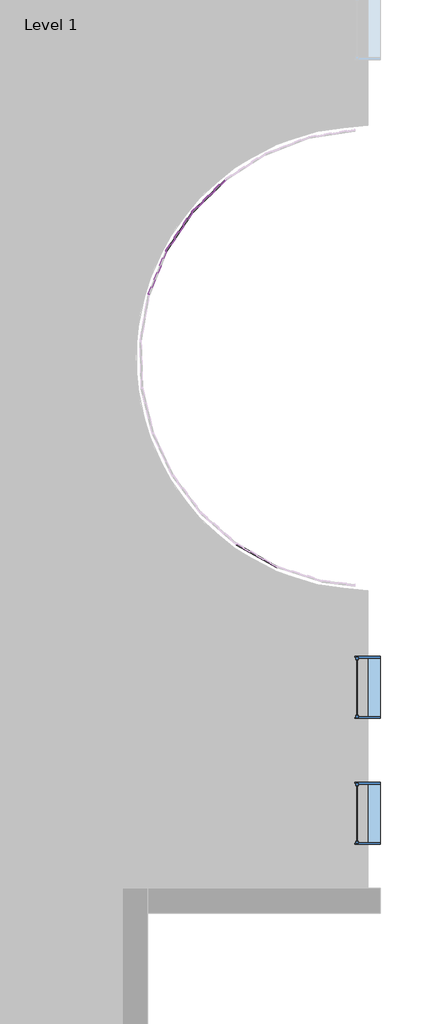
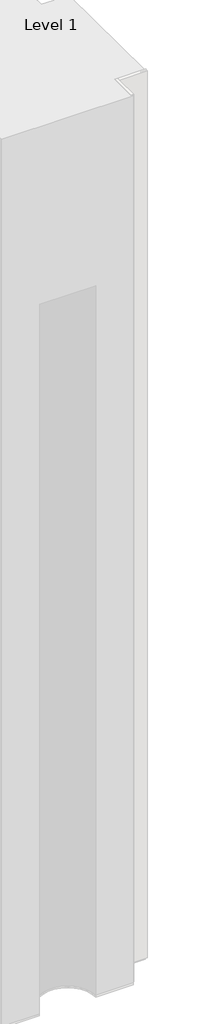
# One storey, part 13 of 20: 121 plates, 2 windows.
"""IFC4 building model written with IfcOpenShell, lengths in millimetres."""

from ifc_helpers import new_model, si_unit, origin, place, context, project, spatial, transform, mapped, element, save
from components import system_panel_glazed_d77d1ebf, window_d0035ecf, window_d434eb62

model = new_model("IFC4")

# Units and contexts
model_context = context("Model", 3, world=origin())
ifc_project = project(units=[si_unit("LENGTHUNIT", "METRE", prefix="MILLI")], contexts=[model_context])

# Site, building, storey
site = spatial("IfcSite", under=ifc_project)
building = spatial("IfcBuilding", under=site)
storey = spatial("IfcBuildingStorey", under=building, Name="Level 1", Elevation=0.0)

# Plates
placement = place(None, origin())
system_panel_glazed_shape = system_panel_glazed_d77d1ebf(model_context)
element("IfcPlate", 1, ObjectType="System Panel : Glazed", at=placement, inside=storey, context=model_context, shape_type="MappedRepresentation", body=[
    mapped(system_panel_glazed_shape, transform((16593.6436197, -10047.6579112, 0.0), x_axis=(0.8722386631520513, -0.4890804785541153, 0.0), y_axis=(0.4890804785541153, 0.8722386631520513, 0.0), z_axis=(0.0, 0.0, 1.0))),
])
element("IfcPlate", 2, ObjectType="System Panel : Glazed", at=placement, inside=storey, context=model_context, shape_type="MappedRepresentation", body=[
    mapped(system_panel_glazed_shape, transform((16593.6436197, -10047.6579112, 3048.0), x_axis=(0.8722386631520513, -0.4890804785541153, 0.0), y_axis=(0.4890804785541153, 0.8722386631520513, 0.0), z_axis=(0.0, 0.0, 1.0))),
])
element("IfcPlate", 3, ObjectType="System Panel : Glazed", at=placement, inside=storey, context=model_context, shape_type="MappedRepresentation", body=[
    mapped(system_panel_glazed_shape, transform((16593.6436197, -10047.6579112, 6096.0), x_axis=(0.8722386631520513, -0.4890804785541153, 0.0), y_axis=(0.4890804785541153, 0.8722386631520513, 0.0), z_axis=(0.0, 0.0, 1.0))),
])
element("IfcPlate", 4, ObjectType="System Panel : Glazed", at=placement, inside=storey, context=model_context, shape_type="MappedRepresentation", body=[
    mapped(system_panel_glazed_shape, transform((16593.6436197, -10047.6579112, 9144.0), x_axis=(0.8722386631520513, -0.4890804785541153, 0.0), y_axis=(0.4890804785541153, 0.8722386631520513, 0.0), z_axis=(0.0, 0.0, 1.0))),
])
element("IfcPlate", 5, ObjectType="System Panel : Glazed", at=placement, inside=storey, context=model_context, shape_type="MappedRepresentation", body=[
    mapped(system_panel_glazed_shape, transform((16593.6436197, -10047.6579112, 12192.0), x_axis=(0.8722386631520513, -0.4890804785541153, 0.0), y_axis=(0.4890804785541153, 0.8722386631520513, 0.0), z_axis=(0.0, 0.0, 1.0))),
])
element("IfcPlate", 6, ObjectType="System Panel : Glazed", at=placement, inside=storey, context=model_context, shape_type="MappedRepresentation", body=[
    mapped(system_panel_glazed_shape, transform((16593.6436197, -10047.6579112, 15240.0), x_axis=(0.8722386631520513, -0.4890804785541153, 0.0), y_axis=(0.4890804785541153, 0.8722386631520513, 0.0), z_axis=(0.0, 0.0, 1.0))),
])
element("IfcPlate", 7, ObjectType="System Panel : Glazed", at=placement, inside=storey, context=model_context, shape_type="MappedRepresentation", body=[
    mapped(system_panel_glazed_shape, transform((16593.6436197, -10047.6579112, 18288.0), x_axis=(0.8722386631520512, -0.48908047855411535, 0.0), y_axis=(0.48908047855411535, 0.8722386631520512, 0.0), z_axis=(0.0, 0.0, 1.0))),
])
element("IfcPlate", 8, ObjectType="System Panel : Glazed", at=placement, inside=storey, context=model_context, shape_type="MappedRepresentation", body=[
    mapped(system_panel_glazed_shape, transform((16593.6436197, -10047.6579112, 21336.0), x_axis=(0.8722386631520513, -0.4890804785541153, 0.0), y_axis=(0.4890804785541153, 0.8722386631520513, 0.0), z_axis=(0.0, 0.0, 1.0))),
])
element("IfcPlate", 9, ObjectType="System Panel : Glazed", at=placement, inside=storey, context=model_context, shape_type="MappedRepresentation", body=[
    mapped(system_panel_glazed_shape, transform((16593.6436197, -10047.6579112, 24384.0), x_axis=(0.8722386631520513, -0.4890804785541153, 0.0), y_axis=(0.4890804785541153, 0.8722386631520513, 0.0), z_axis=(0.0, 0.0, 1.0))),
])
element("IfcPlate", 10, ObjectType="System Panel : Glazed", at=placement, inside=storey, context=model_context, shape_type="MappedRepresentation", body=[
    mapped(system_panel_glazed_shape, transform((16593.6436197, -10047.6579112, 27432.0), x_axis=(0.8722386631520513, -0.4890804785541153, 0.0), y_axis=(0.4890804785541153, 0.8722386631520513, 0.0), z_axis=(0.0, 0.0, 1.0))),
])
element("IfcPlate", 11, ObjectType="System Panel : Glazed", at=placement, inside=storey, context=model_context, shape_type="MappedRepresentation", body=[
    mapped(system_panel_glazed_shape, transform((16593.6436197, -10047.6579112, 30480.0), x_axis=(0.8722386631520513, -0.4890804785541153, 0.0), y_axis=(0.4890804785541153, 0.8722386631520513, 0.0), z_axis=(0.0, 0.0, 1.0))),
])
element("IfcPlate", 12, ObjectType="System Panel : Glazed", at=placement, inside=storey, context=model_context, shape_type="MappedRepresentation", body=[
    mapped(system_panel_glazed_shape, transform((16593.6436197, -10047.6579112, 33528.0), x_axis=(0.8722386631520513, -0.4890804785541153, 0.0), y_axis=(0.4890804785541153, 0.8722386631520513, 0.0), z_axis=(0.0, 0.0, 1.0))),
])
element("IfcPlate", 13, ObjectType="System Panel : Glazed", at=placement, inside=storey, context=model_context, shape_type="MappedRepresentation", body=[
    mapped(system_panel_glazed_shape, transform((16593.6436197, -10047.6579112, 36576.0), x_axis=(0.8722386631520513, -0.4890804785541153, 0.0), y_axis=(0.4890804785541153, 0.8722386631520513, 0.0), z_axis=(0.0, 0.0, 1.0))),
])
element("IfcPlate", 14, ObjectType="System Panel : Glazed", at=placement, inside=storey, context=model_context, shape_type="MappedRepresentation", body=[
    mapped(system_panel_glazed_shape, transform((16593.6436197, -10047.6579112, 39624.0), x_axis=(0.8722386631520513, -0.4890804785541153, 0.0), y_axis=(0.4890804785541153, 0.8722386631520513, 0.0), z_axis=(0.0, 0.0, 1.0))),
])
element("IfcPlate", 15, ObjectType="System Panel : Glazed", at=placement, inside=storey, context=model_context, shape_type="MappedRepresentation", body=[
    mapped(system_panel_glazed_shape, transform((16593.6436197, -10047.6579112, 42672.0), x_axis=(0.8722386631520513, -0.4890804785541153, 0.0), y_axis=(0.4890804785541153, 0.8722386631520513, 0.0), z_axis=(0.0, 0.0, 1.0))),
])
element("IfcPlate", 16, ObjectType="System Panel : Glazed", at=placement, inside=storey, context=model_context, shape_type="MappedRepresentation", body=[
    mapped(system_panel_glazed_shape, transform((16593.6436197, -10047.6579112, 45720.0), x_axis=(0.8722386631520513, -0.4890804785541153, 0.0), y_axis=(0.4890804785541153, 0.8722386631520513, 0.0), z_axis=(0.0, 0.0, 1.0))),
])
element("IfcPlate", 17, ObjectType="System Panel : Glazed", at=placement, inside=storey, context=model_context, shape_type="MappedRepresentation", body=[
    mapped(system_panel_glazed_shape, transform((16593.6436197, -10047.6579112, 48768.0), x_axis=(0.8722386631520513, -0.4890804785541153, 0.0), y_axis=(0.4890804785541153, 0.8722386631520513, 0.0), z_axis=(0.0, 0.0, 1.0))),
])
element("IfcPlate", 18, ObjectType="System Panel : Glazed", at=placement, inside=storey, context=model_context, shape_type="MappedRepresentation", body=[
    mapped(system_panel_glazed_shape, transform((16593.6436197, -10047.6579112, 51816.0), x_axis=(0.8722386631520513, -0.4890804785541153, 0.0), y_axis=(0.4890804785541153, 0.8722386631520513, 0.0), z_axis=(0.0, 0.0, 1.0))),
])
element("IfcPlate", 19, ObjectType="System Panel : Glazed", at=placement, inside=storey, context=model_context, shape_type="MappedRepresentation", body=[
    mapped(system_panel_glazed_shape, transform((16593.6436197, -10047.6579112, 54864.0), x_axis=(0.8722386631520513, -0.4890804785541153, 0.0), y_axis=(0.4890804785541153, 0.8722386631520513, 0.0), z_axis=(0.0, 0.0, 1.0))),
])
element("IfcPlate", 20, ObjectType="System Panel : Glazed", at=placement, inside=storey, context=model_context, shape_type="MappedRepresentation", body=[
    mapped(system_panel_glazed_shape, transform((16593.6436197, -10047.6579112, 57912.0), x_axis=(0.8722386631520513, -0.4890804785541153, 0.0), y_axis=(0.4890804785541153, 0.8722386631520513, 0.0), z_axis=(0.0, 0.0, 1.0))),
])
element("IfcPlate", 21, ObjectType="System Panel : Glazed", at=placement, inside=storey, context=model_context, shape_type="MappedRepresentation", body=[
    mapped(system_panel_glazed_shape, transform((14651.5420762, -4539.9394388, 57912.0), x_axis=(-0.37255142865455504, -0.9280115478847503, 0.0), y_axis=(0.9280115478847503, -0.37255142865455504, 0.0), z_axis=(0.0, 0.0, 1.0))),
])
element("IfcPlate", 22, ObjectType="System Panel : Glazed", at=placement, inside=storey, context=model_context, shape_type="MappedRepresentation", body=[
    mapped(system_panel_glazed_shape, transform((14651.5420762, -4539.9394388, 60960.0), x_axis=(-0.37255142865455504, -0.9280115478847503, 0.0), y_axis=(0.9280115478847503, -0.37255142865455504, 0.0), z_axis=(0.0, 0.0, 1.0))),
])
element("IfcPlate", 23, ObjectType="System Panel : Glazed", at=placement, inside=storey, context=model_context, shape_type="MappedRepresentation", body=[
    mapped(system_panel_glazed_shape, transform((14651.5420762, -4539.9394388, 64008.0), x_axis=(-0.37255142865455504, -0.9280115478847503, 0.0), y_axis=(0.9280115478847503, -0.37255142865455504, 0.0), z_axis=(0.0, 0.0, 1.0))),
])
element("IfcPlate", 24, ObjectType="System Panel : Glazed", at=placement, inside=storey, context=model_context, shape_type="MappedRepresentation", body=[
    mapped(system_panel_glazed_shape, transform((14651.5420762, -4539.9394388, 67056.0), x_axis=(-0.37255142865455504, -0.9280115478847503, 0.0), y_axis=(0.9280115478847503, -0.37255142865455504, 0.0), z_axis=(0.0, 0.0, 1.0))),
])
element("IfcPlate", 25, ObjectType="System Panel : Glazed", at=placement, inside=storey, context=model_context, shape_type="MappedRepresentation", body=[
    mapped(system_panel_glazed_shape, transform((14651.5420762, -4539.9394388, 70104.0), x_axis=(-0.37255142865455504, -0.9280115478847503, 0.0), y_axis=(0.9280115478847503, -0.37255142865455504, 0.0), z_axis=(0.0, 0.0, 1.0))),
])
element("IfcPlate", 26, ObjectType="System Panel : Glazed", at=placement, inside=storey, context=model_context, shape_type="MappedRepresentation", body=[
    mapped(system_panel_glazed_shape, transform((14651.5420762, -4539.9394388, 73152.0), x_axis=(-0.37255142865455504, -0.9280115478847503, 0.0), y_axis=(0.9280115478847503, -0.37255142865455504, 0.0), z_axis=(0.0, 0.0, 1.0))),
])
element("IfcPlate", 27, ObjectType="System Panel : Glazed", at=placement, inside=storey, context=model_context, shape_type="MappedRepresentation", body=[
    mapped(system_panel_glazed_shape, transform((14651.5420762, -4539.9394388, 76200.0), x_axis=(-0.37255142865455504, -0.9280115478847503, 0.0), y_axis=(0.9280115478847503, -0.37255142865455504, 0.0), z_axis=(0.0, 0.0, 1.0))),
])
element("IfcPlate", 28, ObjectType="System Panel : Glazed", at=placement, inside=storey, context=model_context, shape_type="MappedRepresentation", body=[
    mapped(system_panel_glazed_shape, transform((14651.5420762, -4539.9394388, 79248.0), x_axis=(-0.37255142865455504, -0.9280115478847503, 0.0), y_axis=(0.9280115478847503, -0.37255142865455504, 0.0), z_axis=(0.0, 0.0, 1.0))),
])
element("IfcPlate", 29, ObjectType="System Panel : Glazed", at=placement, inside=storey, context=model_context, shape_type="MappedRepresentation", body=[
    mapped(system_panel_glazed_shape, transform((14651.5420762, -4539.9394388, 82296.0), x_axis=(-0.37255142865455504, -0.9280115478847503, 0.0), y_axis=(0.9280115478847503, -0.37255142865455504, 0.0), z_axis=(0.0, 0.0, 1.0))),
])
element("IfcPlate", 30, ObjectType="System Panel : Glazed", at=placement, inside=storey, context=model_context, shape_type="MappedRepresentation", body=[
    mapped(system_panel_glazed_shape, transform((14651.5420762, -4539.9394388, 85344.0), x_axis=(-0.37255142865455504, -0.9280115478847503, 0.0), y_axis=(0.9280115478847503, -0.37255142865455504, 0.0), z_axis=(0.0, 0.0, 1.0))),
])
element("IfcPlate", 31, ObjectType="System Panel : Glazed", at=placement, inside=storey, context=model_context, shape_type="MappedRepresentation", body=[
    mapped(system_panel_glazed_shape, transform((14651.5420762, -4539.9394388, 88392.0), x_axis=(-0.37255142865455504, -0.9280115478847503, 0.0), y_axis=(0.9280115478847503, -0.37255142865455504, 0.0), z_axis=(0.0, 0.0, 1.0))),
])
element("IfcPlate", 32, ObjectType="System Panel : Glazed", at=placement, inside=storey, context=model_context, shape_type="MappedRepresentation", body=[
    mapped(system_panel_glazed_shape, transform((14651.5420762, -4539.9394388, 91440.0), x_axis=(-0.37255142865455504, -0.9280115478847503, 0.0), y_axis=(0.9280115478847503, -0.37255142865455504, 0.0), z_axis=(0.0, 0.0, 1.0))),
])
element("IfcPlate", 33, ObjectType="System Panel : Glazed", at=placement, inside=storey, context=model_context, shape_type="MappedRepresentation", body=[
    mapped(system_panel_glazed_shape, transform((14651.5420762, -4539.9394388, 94488.0), x_axis=(-0.37255142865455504, -0.9280115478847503, 0.0), y_axis=(0.9280115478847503, -0.37255142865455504, 0.0), z_axis=(0.0, 0.0, 1.0))),
])
element("IfcPlate", 34, ObjectType="System Panel : Glazed", at=placement, inside=storey, context=model_context, shape_type="MappedRepresentation", body=[
    mapped(system_panel_glazed_shape, transform((14651.5420762, -4539.9394388, 97536.0), x_axis=(-0.37255142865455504, -0.9280115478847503, 0.0), y_axis=(0.9280115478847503, -0.37255142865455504, 0.0), z_axis=(0.0, 0.0, 1.0))),
])
element("IfcPlate", 35, ObjectType="System Panel : Glazed", at=placement, inside=storey, context=model_context, shape_type="MappedRepresentation", body=[
    mapped(system_panel_glazed_shape, transform((14651.5420762, -4539.9394388, 100584.0), x_axis=(-0.37255142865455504, -0.9280115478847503, 0.0), y_axis=(0.9280115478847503, -0.37255142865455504, 0.0), z_axis=(0.0, 0.0, 1.0))),
])
element("IfcPlate", 36, ObjectType="System Panel : Glazed", at=placement, inside=storey, context=model_context, shape_type="MappedRepresentation", body=[
    mapped(system_panel_glazed_shape, transform((15075.3618251, -3735.1593958, 0.0), x_axis=(-0.5544383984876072, -0.8322247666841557, 0.0), y_axis=(0.8322247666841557, -0.5544383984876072, 0.0), z_axis=(0.0, 0.0, 1.0))),
])
element("IfcPlate", 37, ObjectType="System Panel : Glazed", at=placement, inside=storey, context=model_context, shape_type="MappedRepresentation", body=[
    mapped(system_panel_glazed_shape, transform((15075.3618251, -3735.1593958, 3048.0), x_axis=(-0.5544383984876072, -0.8322247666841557, 0.0), y_axis=(0.8322247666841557, -0.5544383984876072, 0.0), z_axis=(0.0, 0.0, 1.0))),
])
element("IfcPlate", 38, ObjectType="System Panel : Glazed", at=placement, inside=storey, context=model_context, shape_type="MappedRepresentation", body=[
    mapped(system_panel_glazed_shape, transform((15075.3618251, -3735.1593958, 6096.0), x_axis=(-0.5544383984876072, -0.8322247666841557, 0.0), y_axis=(0.8322247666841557, -0.5544383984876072, 0.0), z_axis=(0.0, 0.0, 1.0))),
])
element("IfcPlate", 39, ObjectType="System Panel : Glazed", at=placement, inside=storey, context=model_context, shape_type="MappedRepresentation", body=[
    mapped(system_panel_glazed_shape, transform((15075.3618251, -3735.1593958, 9144.0), x_axis=(-0.5544383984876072, -0.8322247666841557, 0.0), y_axis=(0.8322247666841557, -0.5544383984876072, 0.0), z_axis=(0.0, 0.0, 1.0))),
])
element("IfcPlate", 40, ObjectType="System Panel : Glazed", at=placement, inside=storey, context=model_context, shape_type="MappedRepresentation", body=[
    mapped(system_panel_glazed_shape, transform((15075.3618251, -3735.1593958, 12192.0), x_axis=(-0.5544383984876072, -0.8322247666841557, 0.0), y_axis=(0.8322247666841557, -0.5544383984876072, 0.0), z_axis=(0.0, 0.0, 1.0))),
])
element("IfcPlate", 41, ObjectType="System Panel : Glazed", at=placement, inside=storey, context=model_context, shape_type="MappedRepresentation", body=[
    mapped(system_panel_glazed_shape, transform((15075.3618251, -3735.1593958, 15240.0), x_axis=(-0.5544383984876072, -0.8322247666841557, 0.0), y_axis=(0.8322247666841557, -0.5544383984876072, 0.0), z_axis=(0.0, 0.0, 1.0))),
])
element("IfcPlate", 42, ObjectType="System Panel : Glazed", at=placement, inside=storey, context=model_context, shape_type="MappedRepresentation", body=[
    mapped(system_panel_glazed_shape, transform((15075.3618251, -3735.1593958, 18288.0), x_axis=(-0.5544383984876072, -0.8322247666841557, 0.0), y_axis=(0.8322247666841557, -0.5544383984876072, 0.0), z_axis=(0.0, 0.0, 1.0))),
])
element("IfcPlate", 43, ObjectType="System Panel : Glazed", at=placement, inside=storey, context=model_context, shape_type="MappedRepresentation", body=[
    mapped(system_panel_glazed_shape, transform((15075.3618251, -3735.1593958, 21336.0), x_axis=(-0.5544383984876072, -0.8322247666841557, 0.0), y_axis=(0.8322247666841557, -0.5544383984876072, 0.0), z_axis=(0.0, 0.0, 1.0))),
])
element("IfcPlate", 44, ObjectType="System Panel : Glazed", at=placement, inside=storey, context=model_context, shape_type="MappedRepresentation", body=[
    mapped(system_panel_glazed_shape, transform((15075.3618251, -3735.1593958, 24384.0), x_axis=(-0.5544383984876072, -0.8322247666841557, 0.0), y_axis=(0.8322247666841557, -0.5544383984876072, 0.0), z_axis=(0.0, 0.0, 1.0))),
])
element("IfcPlate", 45, ObjectType="System Panel : Glazed", at=placement, inside=storey, context=model_context, shape_type="MappedRepresentation", body=[
    mapped(system_panel_glazed_shape, transform((15075.3618251, -3735.1593958, 27432.0), x_axis=(-0.5544383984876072, -0.8322247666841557, 0.0), y_axis=(0.8322247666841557, -0.5544383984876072, 0.0), z_axis=(0.0, 0.0, 1.0))),
])
element("IfcPlate", 46, ObjectType="System Panel : Glazed", at=placement, inside=storey, context=model_context, shape_type="MappedRepresentation", body=[
    mapped(system_panel_glazed_shape, transform((15075.3618251, -3735.1593958, 30480.0), x_axis=(-0.5544383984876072, -0.8322247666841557, 0.0), y_axis=(0.8322247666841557, -0.5544383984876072, 0.0), z_axis=(0.0, 0.0, 1.0))),
])
element("IfcPlate", 47, ObjectType="System Panel : Glazed", at=placement, inside=storey, context=model_context, shape_type="MappedRepresentation", body=[
    mapped(system_panel_glazed_shape, transform((15075.3618251, -3735.1593958, 33528.0), x_axis=(-0.5544383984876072, -0.8322247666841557, 0.0), y_axis=(0.8322247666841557, -0.5544383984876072, 0.0), z_axis=(0.0, 0.0, 1.0))),
])
element("IfcPlate", 48, ObjectType="System Panel : Glazed", at=placement, inside=storey, context=model_context, shape_type="MappedRepresentation", body=[
    mapped(system_panel_glazed_shape, transform((15075.3618251, -3735.1593958, 36576.0), x_axis=(-0.5544383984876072, -0.8322247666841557, 0.0), y_axis=(0.8322247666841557, -0.5544383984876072, 0.0), z_axis=(0.0, 0.0, 1.0))),
])
element("IfcPlate", 49, ObjectType="System Panel : Glazed", at=placement, inside=storey, context=model_context, shape_type="MappedRepresentation", body=[
    mapped(system_panel_glazed_shape, transform((15075.3618251, -3735.1593958, 39624.0), x_axis=(-0.5544383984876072, -0.8322247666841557, 0.0), y_axis=(0.8322247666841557, -0.5544383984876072, 0.0), z_axis=(0.0, 0.0, 1.0))),
])
element("IfcPlate", 50, ObjectType="System Panel : Glazed", at=placement, inside=storey, context=model_context, shape_type="MappedRepresentation", body=[
    mapped(system_panel_glazed_shape, transform((15075.3618251, -3735.1593958, 42672.0), x_axis=(-0.5544383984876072, -0.8322247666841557, 0.0), y_axis=(0.8322247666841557, -0.5544383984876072, 0.0), z_axis=(0.0, 0.0, 1.0))),
])
element("IfcPlate", 51, ObjectType="System Panel : Glazed", at=placement, inside=storey, context=model_context, shape_type="MappedRepresentation", body=[
    mapped(system_panel_glazed_shape, transform((15075.3618251, -3735.1593958, 45720.0), x_axis=(-0.5544383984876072, -0.8322247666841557, 0.0), y_axis=(0.8322247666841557, -0.5544383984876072, 0.0), z_axis=(0.0, 0.0, 1.0))),
])
element("IfcPlate", 52, ObjectType="System Panel : Glazed", at=placement, inside=storey, context=model_context, shape_type="MappedRepresentation", body=[
    mapped(system_panel_glazed_shape, transform((15075.3618251, -3735.1593958, 48768.0), x_axis=(-0.5544383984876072, -0.8322247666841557, 0.0), y_axis=(0.8322247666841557, -0.5544383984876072, 0.0), z_axis=(0.0, 0.0, 1.0))),
])
element("IfcPlate", 53, ObjectType="System Panel : Glazed", at=placement, inside=storey, context=model_context, shape_type="MappedRepresentation", body=[
    mapped(system_panel_glazed_shape, transform((15075.3618251, -3735.1593958, 51816.0), x_axis=(-0.5544383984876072, -0.8322247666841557, 0.0), y_axis=(0.8322247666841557, -0.5544383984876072, 0.0), z_axis=(0.0, 0.0, 1.0))),
])
element("IfcPlate", 54, ObjectType="System Panel : Glazed", at=placement, inside=storey, context=model_context, shape_type="MappedRepresentation", body=[
    mapped(system_panel_glazed_shape, transform((15075.3618251, -3735.1593958, 54864.0), x_axis=(-0.5544383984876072, -0.8322247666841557, 0.0), y_axis=(0.8322247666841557, -0.5544383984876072, 0.0), z_axis=(0.0, 0.0, 1.0))),
])
element("IfcPlate", 55, ObjectType="System Panel : Glazed", at=placement, inside=storey, context=model_context, shape_type="MappedRepresentation", body=[
    mapped(system_panel_glazed_shape, transform((15075.3618251, -3735.1593958, 57912.0), x_axis=(-0.5544383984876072, -0.8322247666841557, 0.0), y_axis=(0.8322247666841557, -0.5544383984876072, 0.0), z_axis=(0.0, 0.0, 1.0))),
])
element("IfcPlate", 56, ObjectType="System Panel : Glazed", at=placement, inside=storey, context=model_context, shape_type="MappedRepresentation", body=[
    mapped(system_panel_glazed_shape, transform((15075.3618251, -3735.1593958, 60960.0), x_axis=(-0.5544383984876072, -0.8322247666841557, 0.0), y_axis=(0.8322247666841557, -0.5544383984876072, 0.0), z_axis=(0.0, 0.0, 1.0))),
])
element("IfcPlate", 57, ObjectType="System Panel : Glazed", at=placement, inside=storey, context=model_context, shape_type="MappedRepresentation", body=[
    mapped(system_panel_glazed_shape, transform((15075.3618251, -3735.1593958, 64008.0), x_axis=(-0.5544383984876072, -0.8322247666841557, 0.0), y_axis=(0.8322247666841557, -0.5544383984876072, 0.0), z_axis=(0.0, 0.0, 1.0))),
])
element("IfcPlate", 58, ObjectType="System Panel : Glazed", at=placement, inside=storey, context=model_context, shape_type="MappedRepresentation", body=[
    mapped(system_panel_glazed_shape, transform((15075.3618251, -3735.1593958, 67056.0), x_axis=(-0.5544383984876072, -0.8322247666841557, 0.0), y_axis=(0.8322247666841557, -0.5544383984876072, 0.0), z_axis=(0.0, 0.0, 1.0))),
])
element("IfcPlate", 59, ObjectType="System Panel : Glazed", at=placement, inside=storey, context=model_context, shape_type="MappedRepresentation", body=[
    mapped(system_panel_glazed_shape, transform((15075.3618251, -3735.1593958, 70104.0), x_axis=(-0.5544383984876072, -0.8322247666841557, 0.0), y_axis=(0.8322247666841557, -0.5544383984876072, 0.0), z_axis=(0.0, 0.0, 1.0))),
])
element("IfcPlate", 60, ObjectType="System Panel : Glazed", at=placement, inside=storey, context=model_context, shape_type="MappedRepresentation", body=[
    mapped(system_panel_glazed_shape, transform((15075.3618251, -3735.1593958, 73152.0), x_axis=(-0.5544383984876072, -0.8322247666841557, 0.0), y_axis=(0.8322247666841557, -0.5544383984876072, 0.0), z_axis=(0.0, 0.0, 1.0))),
])
element("IfcPlate", 61, ObjectType="System Panel : Glazed", at=placement, inside=storey, context=model_context, shape_type="MappedRepresentation", body=[
    mapped(system_panel_glazed_shape, transform((15075.3618251, -3735.1593958, 76200.0), x_axis=(-0.5544383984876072, -0.8322247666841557, 0.0), y_axis=(0.8322247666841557, -0.5544383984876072, 0.0), z_axis=(0.0, 0.0, 1.0))),
])
element("IfcPlate", 62, ObjectType="System Panel : Glazed", at=placement, inside=storey, context=model_context, shape_type="MappedRepresentation", body=[
    mapped(system_panel_glazed_shape, transform((15075.3618251, -3735.1593958, 79248.0), x_axis=(-0.5544383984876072, -0.8322247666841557, 0.0), y_axis=(0.8322247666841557, -0.5544383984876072, 0.0), z_axis=(0.0, 0.0, 1.0))),
])
element("IfcPlate", 63, ObjectType="System Panel : Glazed", at=placement, inside=storey, context=model_context, shape_type="MappedRepresentation", body=[
    mapped(system_panel_glazed_shape, transform((15075.3618251, -3735.1593958, 82296.0), x_axis=(-0.5544383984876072, -0.8322247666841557, 0.0), y_axis=(0.8322247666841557, -0.5544383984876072, 0.0), z_axis=(0.0, 0.0, 1.0))),
])
element("IfcPlate", 64, ObjectType="System Panel : Glazed", at=placement, inside=storey, context=model_context, shape_type="MappedRepresentation", body=[
    mapped(system_panel_glazed_shape, transform((15075.3618251, -3735.1593958, 85344.0), x_axis=(-0.5544383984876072, -0.8322247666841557, 0.0), y_axis=(0.8322247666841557, -0.5544383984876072, 0.0), z_axis=(0.0, 0.0, 1.0))),
])
element("IfcPlate", 65, ObjectType="System Panel : Glazed", at=placement, inside=storey, context=model_context, shape_type="MappedRepresentation", body=[
    mapped(system_panel_glazed_shape, transform((15075.3618251, -3735.1593958, 88392.0), x_axis=(-0.5544383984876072, -0.8322247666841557, 0.0), y_axis=(0.8322247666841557, -0.5544383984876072, 0.0), z_axis=(0.0, 0.0, 1.0))),
])
element("IfcPlate", 66, ObjectType="System Panel : Glazed", at=placement, inside=storey, context=model_context, shape_type="MappedRepresentation", body=[
    mapped(system_panel_glazed_shape, transform((15075.3618251, -3735.1593958, 91440.0), x_axis=(-0.5544383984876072, -0.8322247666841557, 0.0), y_axis=(0.8322247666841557, -0.5544383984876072, 0.0), z_axis=(0.0, 0.0, 1.0))),
])
element("IfcPlate", 67, ObjectType="System Panel : Glazed", at=placement, inside=storey, context=model_context, shape_type="MappedRepresentation", body=[
    mapped(system_panel_glazed_shape, transform((15075.3618251, -3735.1593958, 94488.0), x_axis=(-0.5544383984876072, -0.8322247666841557, 0.0), y_axis=(0.8322247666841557, -0.5544383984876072, 0.0), z_axis=(0.0, 0.0, 1.0))),
])
element("IfcPlate", 68, ObjectType="System Panel : Glazed", at=placement, inside=storey, context=model_context, shape_type="MappedRepresentation", body=[
    mapped(system_panel_glazed_shape, transform((15075.3618251, -3735.1593958, 97536.0), x_axis=(-0.5544383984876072, -0.8322247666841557, 0.0), y_axis=(0.8322247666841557, -0.5544383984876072, 0.0), z_axis=(0.0, 0.0, 1.0))),
])
element("IfcPlate", 69, ObjectType="System Panel : Glazed", at=placement, inside=storey, context=model_context, shape_type="MappedRepresentation", body=[
    mapped(system_panel_glazed_shape, transform((15075.3618251, -3735.1593958, 100584.0), x_axis=(-0.5544383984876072, -0.8322247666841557, 0.0), y_axis=(0.8322247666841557, -0.5544383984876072, 0.0), z_axis=(0.0, 0.0, 1.0))),
])
element("IfcPlate", 70, ObjectType="System Panel : Glazed", at=placement, inside=storey, context=model_context, shape_type="MappedRepresentation", body=[
    mapped(system_panel_glazed_shape, transform((15654.787077, -3034.0456569, 0.0), x_axis=(-0.7128959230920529, -0.701269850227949, 0.0), y_axis=(0.701269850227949, -0.7128959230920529, 0.0), z_axis=(0.0, 0.0, 1.0))),
])
element("IfcPlate", 71, ObjectType="System Panel : Glazed", at=placement, inside=storey, context=model_context, shape_type="MappedRepresentation", body=[
    mapped(system_panel_glazed_shape, transform((15654.787077, -3034.0456569, 3048.0), x_axis=(-0.7128959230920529, -0.701269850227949, 0.0), y_axis=(0.701269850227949, -0.7128959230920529, 0.0), z_axis=(0.0, 0.0, 1.0))),
])
element("IfcPlate", 72, ObjectType="System Panel : Glazed", at=placement, inside=storey, context=model_context, shape_type="MappedRepresentation", body=[
    mapped(system_panel_glazed_shape, transform((15654.787077, -3034.0456569, 6096.0), x_axis=(-0.7128959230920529, -0.701269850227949, 0.0), y_axis=(0.701269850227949, -0.7128959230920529, 0.0), z_axis=(0.0, 0.0, 1.0))),
])
element("IfcPlate", 73, ObjectType="System Panel : Glazed", at=placement, inside=storey, context=model_context, shape_type="MappedRepresentation", body=[
    mapped(system_panel_glazed_shape, transform((15654.787077, -3034.0456569, 9144.0), x_axis=(-0.7128959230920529, -0.701269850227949, 0.0), y_axis=(0.701269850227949, -0.7128959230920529, 0.0), z_axis=(0.0, 0.0, 1.0))),
])
element("IfcPlate", 74, ObjectType="System Panel : Glazed", at=placement, inside=storey, context=model_context, shape_type="MappedRepresentation", body=[
    mapped(system_panel_glazed_shape, transform((15654.787077, -3034.0456569, 12192.0), x_axis=(-0.7128959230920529, -0.701269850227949, 0.0), y_axis=(0.701269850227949, -0.7128959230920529, 0.0), z_axis=(0.0, 0.0, 1.0))),
])
element("IfcPlate", 75, ObjectType="System Panel : Glazed", at=placement, inside=storey, context=model_context, shape_type="MappedRepresentation", body=[
    mapped(system_panel_glazed_shape, transform((15654.787077, -3034.0456569, 15240.0), x_axis=(-0.7128959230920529, -0.701269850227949, 0.0), y_axis=(0.701269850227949, -0.7128959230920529, 0.0), z_axis=(0.0, 0.0, 1.0))),
])
element("IfcPlate", 76, ObjectType="System Panel : Glazed", at=placement, inside=storey, context=model_context, shape_type="MappedRepresentation", body=[
    mapped(system_panel_glazed_shape, transform((15654.787077, -3034.0456569, 18288.0), x_axis=(-0.7128959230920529, -0.701269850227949, 0.0), y_axis=(0.701269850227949, -0.7128959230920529, 0.0), z_axis=(0.0, 0.0, 1.0))),
])
element("IfcPlate", 77, ObjectType="System Panel : Glazed", at=placement, inside=storey, context=model_context, shape_type="MappedRepresentation", body=[
    mapped(system_panel_glazed_shape, transform((15654.787077, -3034.0456569, 21336.0), x_axis=(-0.7128959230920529, -0.701269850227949, 0.0), y_axis=(0.701269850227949, -0.7128959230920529, 0.0), z_axis=(0.0, 0.0, 1.0))),
])
element("IfcPlate", 78, ObjectType="System Panel : Glazed", at=placement, inside=storey, context=model_context, shape_type="MappedRepresentation", body=[
    mapped(system_panel_glazed_shape, transform((15654.787077, -3034.0456569, 24384.0), x_axis=(-0.7128959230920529, -0.701269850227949, 0.0), y_axis=(0.701269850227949, -0.7128959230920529, 0.0), z_axis=(0.0, 0.0, 1.0))),
])
element("IfcPlate", 79, ObjectType="System Panel : Glazed", at=placement, inside=storey, context=model_context, shape_type="MappedRepresentation", body=[
    mapped(system_panel_glazed_shape, transform((15654.787077, -3034.0456569, 27432.0), x_axis=(-0.7128959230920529, -0.701269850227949, 0.0), y_axis=(0.701269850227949, -0.7128959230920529, 0.0), z_axis=(0.0, 0.0, 1.0))),
])
element("IfcPlate", 80, ObjectType="System Panel : Glazed", at=placement, inside=storey, context=model_context, shape_type="MappedRepresentation", body=[
    mapped(system_panel_glazed_shape, transform((15654.787077, -3034.0456569, 30480.0), x_axis=(-0.7128959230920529, -0.701269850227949, 0.0), y_axis=(0.701269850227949, -0.7128959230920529, 0.0), z_axis=(0.0, 0.0, 1.0))),
])
element("IfcPlate", 81, ObjectType="System Panel : Glazed", at=placement, inside=storey, context=model_context, shape_type="MappedRepresentation", body=[
    mapped(system_panel_glazed_shape, transform((15654.787077, -3034.0456569, 33528.0), x_axis=(-0.7128959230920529, -0.701269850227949, 0.0), y_axis=(0.701269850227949, -0.7128959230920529, 0.0), z_axis=(0.0, 0.0, 1.0))),
])
element("IfcPlate", 82, ObjectType="System Panel : Glazed", at=placement, inside=storey, context=model_context, shape_type="MappedRepresentation", body=[
    mapped(system_panel_glazed_shape, transform((15654.787077, -3034.0456569, 36576.0), x_axis=(-0.7128959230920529, -0.701269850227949, 0.0), y_axis=(0.701269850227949, -0.7128959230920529, 0.0), z_axis=(0.0, 0.0, 1.0))),
])
element("IfcPlate", 83, ObjectType="System Panel : Glazed", at=placement, inside=storey, context=model_context, shape_type="MappedRepresentation", body=[
    mapped(system_panel_glazed_shape, transform((15654.787077, -3034.0456569, 39624.0), x_axis=(-0.7128959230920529, -0.701269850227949, 0.0), y_axis=(0.701269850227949, -0.7128959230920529, 0.0), z_axis=(0.0, 0.0, 1.0))),
])
element("IfcPlate", 84, ObjectType="System Panel : Glazed", at=placement, inside=storey, context=model_context, shape_type="MappedRepresentation", body=[
    mapped(system_panel_glazed_shape, transform((15654.787077, -3034.0456569, 42672.0), x_axis=(-0.7128959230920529, -0.701269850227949, 0.0), y_axis=(0.701269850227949, -0.7128959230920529, 0.0), z_axis=(0.0, 0.0, 1.0))),
])
element("IfcPlate", 85, ObjectType="System Panel : Glazed", at=placement, inside=storey, context=model_context, shape_type="MappedRepresentation", body=[
    mapped(system_panel_glazed_shape, transform((15654.787077, -3034.0456569, 45720.0), x_axis=(-0.7128959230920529, -0.701269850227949, 0.0), y_axis=(0.701269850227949, -0.7128959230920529, 0.0), z_axis=(0.0, 0.0, 1.0))),
])
element("IfcPlate", 86, ObjectType="System Panel : Glazed", at=placement, inside=storey, context=model_context, shape_type="MappedRepresentation", body=[
    mapped(system_panel_glazed_shape, transform((15654.787077, -3034.0456569, 48768.0), x_axis=(-0.7128959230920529, -0.701269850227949, 0.0), y_axis=(0.701269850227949, -0.7128959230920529, 0.0), z_axis=(0.0, 0.0, 1.0))),
])
element("IfcPlate", 87, ObjectType="System Panel : Glazed", at=placement, inside=storey, context=model_context, shape_type="MappedRepresentation", body=[
    mapped(system_panel_glazed_shape, transform((15654.787077, -3034.0456569, 51816.0), x_axis=(-0.7128959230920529, -0.701269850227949, 0.0), y_axis=(0.701269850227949, -0.7128959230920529, 0.0), z_axis=(0.0, 0.0, 1.0))),
])
element("IfcPlate", 88, ObjectType="System Panel : Glazed", at=placement, inside=storey, context=model_context, shape_type="MappedRepresentation", body=[
    mapped(system_panel_glazed_shape, transform((15654.787077, -3034.0456569, 54864.0), x_axis=(-0.7128959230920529, -0.701269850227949, 0.0), y_axis=(0.701269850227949, -0.7128959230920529, 0.0), z_axis=(0.0, 0.0, 1.0))),
])
element("IfcPlate", 89, ObjectType="System Panel : Glazed", at=placement, inside=storey, context=model_context, shape_type="MappedRepresentation", body=[
    mapped(system_panel_glazed_shape, transform((15654.787077, -3034.0456569, 57912.0), x_axis=(-0.7128959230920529, -0.701269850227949, 0.0), y_axis=(0.701269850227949, -0.7128959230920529, 0.0), z_axis=(0.0, 0.0, 1.0))),
])
element("IfcPlate", 90, ObjectType="System Panel : Glazed", at=placement, inside=storey, context=model_context, shape_type="MappedRepresentation", body=[
    mapped(system_panel_glazed_shape, transform((15654.787077, -3034.0456569, 60960.0), x_axis=(-0.7128959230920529, -0.701269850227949, 0.0), y_axis=(0.701269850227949, -0.7128959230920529, 0.0), z_axis=(0.0, 0.0, 1.0))),
])
element("IfcPlate", 91, ObjectType="System Panel : Glazed", at=placement, inside=storey, context=model_context, shape_type="MappedRepresentation", body=[
    mapped(system_panel_glazed_shape, transform((15654.787077, -3034.0456569, 64008.0), x_axis=(-0.7128959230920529, -0.701269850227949, 0.0), y_axis=(0.701269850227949, -0.7128959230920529, 0.0), z_axis=(0.0, 0.0, 1.0))),
])
element("IfcPlate", 92, ObjectType="System Panel : Glazed", at=placement, inside=storey, context=model_context, shape_type="MappedRepresentation", body=[
    mapped(system_panel_glazed_shape, transform((15654.787077, -3034.0456569, 67056.0), x_axis=(-0.7128959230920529, -0.701269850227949, 0.0), y_axis=(0.701269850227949, -0.7128959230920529, 0.0), z_axis=(0.0, 0.0, 1.0))),
])
element("IfcPlate", 93, ObjectType="System Panel : Glazed", at=placement, inside=storey, context=model_context, shape_type="MappedRepresentation", body=[
    mapped(system_panel_glazed_shape, transform((15654.787077, -3034.0456569, 70104.0), x_axis=(-0.7128959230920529, -0.701269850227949, 0.0), y_axis=(0.701269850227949, -0.7128959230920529, 0.0), z_axis=(0.0, 0.0, 1.0))),
])
element("IfcPlate", 94, ObjectType="System Panel : Glazed", at=placement, inside=storey, context=model_context, shape_type="MappedRepresentation", body=[
    mapped(system_panel_glazed_shape, transform((15654.787077, -3034.0456569, 73152.0), x_axis=(-0.7128959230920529, -0.701269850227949, 0.0), y_axis=(0.701269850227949, -0.7128959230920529, 0.0), z_axis=(0.0, 0.0, 1.0))),
])
element("IfcPlate", 95, ObjectType="System Panel : Glazed", at=placement, inside=storey, context=model_context, shape_type="MappedRepresentation", body=[
    mapped(system_panel_glazed_shape, transform((15654.787077, -3034.0456569, 76200.0), x_axis=(-0.7128959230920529, -0.701269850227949, 0.0), y_axis=(0.701269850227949, -0.7128959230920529, 0.0), z_axis=(0.0, 0.0, 1.0))),
])
element("IfcPlate", 96, ObjectType="System Panel : Glazed", at=placement, inside=storey, context=model_context, shape_type="MappedRepresentation", body=[
    mapped(system_panel_glazed_shape, transform((15654.787077, -3034.0456569, 79248.0), x_axis=(-0.7128959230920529, -0.701269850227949, 0.0), y_axis=(0.701269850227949, -0.7128959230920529, 0.0), z_axis=(0.0, 0.0, 1.0))),
])
element("IfcPlate", 97, ObjectType="System Panel : Glazed", at=placement, inside=storey, context=model_context, shape_type="MappedRepresentation", body=[
    mapped(system_panel_glazed_shape, transform((15654.787077, -3034.0456569, 82296.0), x_axis=(-0.7128959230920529, -0.701269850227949, 0.0), y_axis=(0.701269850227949, -0.7128959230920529, 0.0), z_axis=(0.0, 0.0, 1.0))),
])
element("IfcPlate", 98, ObjectType="System Panel : Glazed", at=placement, inside=storey, context=model_context, shape_type="MappedRepresentation", body=[
    mapped(system_panel_glazed_shape, transform((15654.787077, -3034.0456569, 85344.0), x_axis=(-0.7128959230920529, -0.701269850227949, 0.0), y_axis=(0.701269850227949, -0.7128959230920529, 0.0), z_axis=(0.0, 0.0, 1.0))),
])
element("IfcPlate", 99, ObjectType="System Panel : Glazed", at=placement, inside=storey, context=model_context, shape_type="MappedRepresentation", body=[
    mapped(system_panel_glazed_shape, transform((15654.787077, -3034.0456569, 88392.0), x_axis=(-0.7128959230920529, -0.701269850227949, 0.0), y_axis=(0.701269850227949, -0.7128959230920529, 0.0), z_axis=(0.0, 0.0, 1.0))),
])
element("IfcPlate", 100, ObjectType="System Panel : Glazed", at=placement, inside=storey, context=model_context, shape_type="MappedRepresentation", body=[
    mapped(system_panel_glazed_shape, transform((15654.787077, -3034.0456569, 91440.0), x_axis=(-0.7128959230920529, -0.701269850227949, 0.0), y_axis=(0.701269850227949, -0.7128959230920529, 0.0), z_axis=(0.0, 0.0, 1.0))),
])
element("IfcPlate", 101, ObjectType="System Panel : Glazed", at=placement, inside=storey, context=model_context, shape_type="MappedRepresentation", body=[
    mapped(system_panel_glazed_shape, transform((15654.787077, -3034.0456569, 94488.0), x_axis=(-0.7128959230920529, -0.701269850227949, 0.0), y_axis=(0.701269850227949, -0.7128959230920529, 0.0), z_axis=(0.0, 0.0, 1.0))),
])
element("IfcPlate", 102, ObjectType="System Panel : Glazed", at=placement, inside=storey, context=model_context, shape_type="MappedRepresentation", body=[
    mapped(system_panel_glazed_shape, transform((15654.787077, -3034.0456569, 97536.0), x_axis=(-0.7128959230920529, -0.701269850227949, 0.0), y_axis=(0.701269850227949, -0.7128959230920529, 0.0), z_axis=(0.0, 0.0, 1.0))),
])
element("IfcPlate", 103, ObjectType="System Panel : Glazed", at=placement, inside=storey, context=model_context, shape_type="MappedRepresentation", body=[
    mapped(system_panel_glazed_shape, transform((15654.787077, -3034.0456569, 100584.0), x_axis=(-0.7128959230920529, -0.701269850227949, 0.0), y_axis=(0.701269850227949, -0.7128959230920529, 0.0), z_axis=(0.0, 0.0, 1.0))),
])
element("IfcPlate", 104, ObjectType="System Panel : Glazed", at=placement, inside=storey, context=model_context, shape_type="MappedRepresentation", body=[
    mapped(system_panel_glazed_shape, transform((14651.5420762, -4539.9394388, 103632.0), x_axis=(-0.37255142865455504, -0.9280115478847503, 0.0), y_axis=(0.9280115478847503, -0.37255142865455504, 0.0), z_axis=(0.0, 0.0, 1.0))),
])
element("IfcPlate", 105, ObjectType="System Panel : Glazed", at=placement, inside=storey, context=model_context, shape_type="MappedRepresentation", body=[
    mapped(system_panel_glazed_shape, transform((15075.3618251, -3735.1593958, 103632.0), x_axis=(-0.5544383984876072, -0.8322247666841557, 0.0), y_axis=(0.8322247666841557, -0.5544383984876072, 0.0), z_axis=(0.0, 0.0, 1.0))),
])
element("IfcPlate", 106, ObjectType="System Panel : Glazed", at=placement, inside=storey, context=model_context, shape_type="MappedRepresentation", body=[
    mapped(system_panel_glazed_shape, transform((15654.787077, -3034.0456569, 103632.0), x_axis=(-0.7128959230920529, -0.701269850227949, 0.0), y_axis=(0.701269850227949, -0.7128959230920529, 0.0), z_axis=(0.0, 0.0, 1.0))),
])
element("IfcPlate", 107, ObjectType="System Panel : Glazed", at=placement, inside=storey, context=model_context, shape_type="MappedRepresentation", body=[
    mapped(system_panel_glazed_shape, transform((14651.5420762, -4539.9394388, 106680.0), x_axis=(-0.37255142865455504, -0.9280115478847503, 0.0), y_axis=(0.9280115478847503, -0.37255142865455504, 0.0), z_axis=(0.0, 0.0, 1.0))),
])
element("IfcPlate", 108, ObjectType="System Panel : Glazed", at=placement, inside=storey, context=model_context, shape_type="MappedRepresentation", body=[
    mapped(system_panel_glazed_shape, transform((15075.3618251, -3735.1593958, 106680.0), x_axis=(-0.5544383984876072, -0.8322247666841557, 0.0), y_axis=(0.8322247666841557, -0.5544383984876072, 0.0), z_axis=(0.0, 0.0, 1.0))),
])
element("IfcPlate", 109, ObjectType="System Panel : Glazed", at=placement, inside=storey, context=model_context, shape_type="MappedRepresentation", body=[
    mapped(system_panel_glazed_shape, transform((15654.787077, -3034.0456569, 106680.0), x_axis=(-0.7128959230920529, -0.701269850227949, 0.0), y_axis=(0.701269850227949, -0.7128959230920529, 0.0), z_axis=(0.0, 0.0, 1.0))),
])
element("IfcPlate", 110, ObjectType="System Panel : Glazed", at=placement, inside=storey, context=model_context, shape_type="MappedRepresentation", body=[
    mapped(system_panel_glazed_shape, transform((14651.5420762, -4539.9394388, 109728.0), x_axis=(-0.37255142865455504, -0.9280115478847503, 0.0), y_axis=(0.9280115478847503, -0.37255142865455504, 0.0), z_axis=(0.0, 0.0, 1.0))),
])
element("IfcPlate", 111, ObjectType="System Panel : Glazed", at=placement, inside=storey, context=model_context, shape_type="MappedRepresentation", body=[
    mapped(system_panel_glazed_shape, transform((15075.3618251, -3735.1593958, 109728.0), x_axis=(-0.5544383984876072, -0.8322247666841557, 0.0), y_axis=(0.8322247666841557, -0.5544383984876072, 0.0), z_axis=(0.0, 0.0, 1.0))),
])
element("IfcPlate", 112, ObjectType="System Panel : Glazed", at=placement, inside=storey, context=model_context, shape_type="MappedRepresentation", body=[
    mapped(system_panel_glazed_shape, transform((15654.787077, -3034.0456569, 109728.0), x_axis=(-0.7128959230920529, -0.701269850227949, 0.0), y_axis=(0.701269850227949, -0.7128959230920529, 0.0), z_axis=(0.0, 0.0, 1.0))),
])
element("IfcPlate", 113, ObjectType="System Panel : Glazed", at=placement, inside=storey, context=model_context, shape_type="MappedRepresentation", body=[
    mapped(system_panel_glazed_shape, transform((14651.5420762, -4539.9394388, 112776.0), x_axis=(-0.37255142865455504, -0.9280115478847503, 0.0), y_axis=(0.9280115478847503, -0.37255142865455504, 0.0), z_axis=(0.0, 0.0, 1.0))),
])
element("IfcPlate", 114, ObjectType="System Panel : Glazed", at=placement, inside=storey, context=model_context, shape_type="MappedRepresentation", body=[
    mapped(system_panel_glazed_shape, transform((15075.3618251, -3735.1593958, 112776.0), x_axis=(-0.5544383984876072, -0.8322247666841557, 0.0), y_axis=(0.8322247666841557, -0.5544383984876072, 0.0), z_axis=(0.0, 0.0, 1.0))),
])
element("IfcPlate", 115, ObjectType="System Panel : Glazed", at=placement, inside=storey, context=model_context, shape_type="MappedRepresentation", body=[
    mapped(system_panel_glazed_shape, transform((15654.787077, -3034.0456569, 112776.0), x_axis=(-0.7128959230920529, -0.701269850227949, 0.0), y_axis=(0.701269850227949, -0.7128959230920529, 0.0), z_axis=(0.0, 0.0, 1.0))),
])
element("IfcPlate", 116, ObjectType="System Panel : Glazed", at=placement, inside=storey, context=model_context, shape_type="MappedRepresentation", body=[
    mapped(system_panel_glazed_shape, transform((14651.5420762, -4539.9394388, 115824.0), x_axis=(-0.37255142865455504, -0.9280115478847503, 0.0), y_axis=(0.9280115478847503, -0.37255142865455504, 0.0), z_axis=(0.0, 0.0, 1.0))),
])
element("IfcPlate", 117, ObjectType="System Panel : Glazed", at=placement, inside=storey, context=model_context, shape_type="MappedRepresentation", body=[
    mapped(system_panel_glazed_shape, transform((15075.3618251, -3735.1593958, 115824.0), x_axis=(-0.5544383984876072, -0.8322247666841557, 0.0), y_axis=(0.8322247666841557, -0.5544383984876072, 0.0), z_axis=(0.0, 0.0, 1.0))),
])
element("IfcPlate", 118, ObjectType="System Panel : Glazed", at=placement, inside=storey, context=model_context, shape_type="MappedRepresentation", body=[
    mapped(system_panel_glazed_shape, transform((15654.787077, -3034.0456569, 115824.0), x_axis=(-0.7128959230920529, -0.701269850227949, 0.0), y_axis=(0.701269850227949, -0.7128959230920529, 0.0), z_axis=(0.0, 0.0, 1.0))),
])
element("IfcPlate", 119, ObjectType="System Panel : Glazed", at=placement, inside=storey, context=model_context, shape_type="MappedRepresentation", body=[
    mapped(system_panel_glazed_shape, transform((14651.5420762, -4539.9394388, 118872.0), x_axis=(-0.37255142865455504, -0.9280115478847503, 0.0), y_axis=(0.9280115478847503, -0.37255142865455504, 0.0), z_axis=(0.0, 0.0, 1.0))),
])
element("IfcPlate", 120, ObjectType="System Panel : Glazed", at=placement, inside=storey, context=model_context, shape_type="MappedRepresentation", body=[
    mapped(system_panel_glazed_shape, transform((15075.3618251, -3735.1593958, 118872.0), x_axis=(-0.5544383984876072, -0.8322247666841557, 0.0), y_axis=(0.8322247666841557, -0.5544383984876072, 0.0), z_axis=(0.0, 0.0, 1.0))),
])
element("IfcPlate", 121, ObjectType="System Panel : Glazed", at=placement, inside=storey, context=model_context, shape_type="MappedRepresentation", body=[
    mapped(system_panel_glazed_shape, transform((15654.787077, -3034.0456569, 118872.0), x_axis=(-0.7128959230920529, -0.701269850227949, 0.0), y_axis=(0.701269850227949, -0.7128959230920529, 0.0), z_axis=(0.0, 0.0, 1.0))),
])

# Windows
window_shape = window_d0035ecf(model_context)
element("IfcWindow", 122, ObjectType="Fixed : 48\" x 48\"", at=placement, inside=storey, context=model_context, shape_type="MappedRepresentation", body=[
    mapped(window_shape, transform((18754.4620544, -12624.0615453, 0.0), x_axis=(0.0, 1.0, 0.0), y_axis=(-1.0, 0.0, 0.0), z_axis=(0.0, 0.0, 1.0))),
])
window_2_shape = window_d434eb62(model_context)
element("IfcWindow", 123, ObjectType="Fixed : 48\" x 48\"", at=placement, inside=storey, context=model_context, shape_type="MappedRepresentation", body=[
    mapped(window_2_shape, transform((18754.4620544, -15175.1729277, 0.0), x_axis=(0.0, -1.0, 0.0), y_axis=(1.0, 0.0, 0.0), z_axis=(0.0, 0.0, 1.0))),
])

save(model, "model.ifc")
